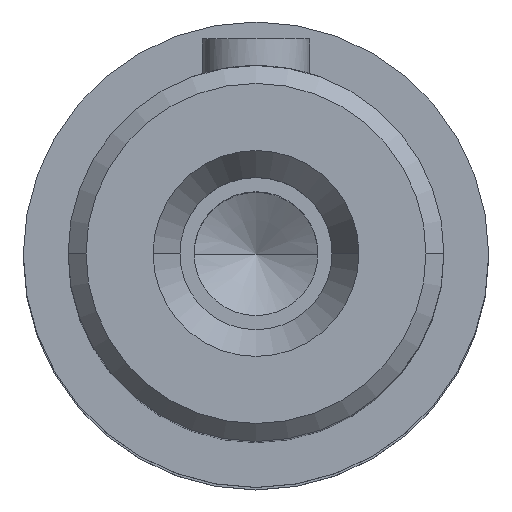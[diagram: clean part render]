
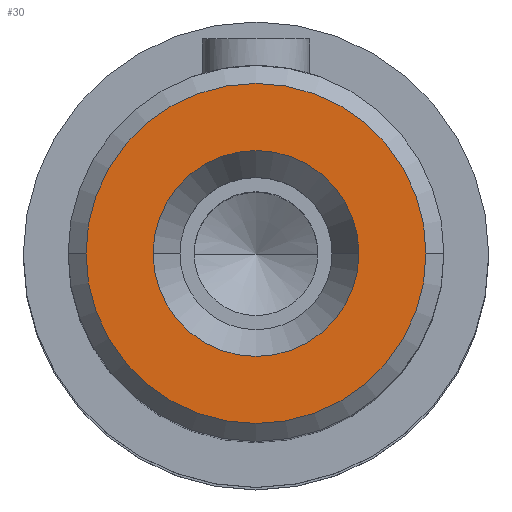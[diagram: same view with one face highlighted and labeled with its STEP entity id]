
A CAD part, top view. The second image highlights one B-rep face of the part: STEP entity #30.
In plain terms, the highlighted planar face has unit normal (0, 0, 1) as drawn and (1, 0, 0) by its records, which use the part's own axes.
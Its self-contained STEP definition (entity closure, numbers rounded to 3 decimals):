
#30=ADVANCED_FACE('',(#88,#73),#707,.T.);
#73=FACE_BOUND('',#144,.T.);
#88=FACE_OUTER_BOUND('',#143,.T.);
#143=EDGE_LOOP('',(#239,#240));
#144=EDGE_LOOP('',(#241,#242));
#239=ORIENTED_EDGE('',*,*,#404,.F.);
#240=ORIENTED_EDGE('',*,*,#407,.F.);
#241=ORIENTED_EDGE('',*,*,#469,.F.);
#242=ORIENTED_EDGE('',*,*,#432,.F.);
#404=EDGE_CURVE('',#647,#650,#539,.T.);
#407=EDGE_CURVE('',#650,#647,#541,.T.);
#432=EDGE_CURVE('',#649,#684,#551,.T.);
#469=EDGE_CURVE('',#684,#649,#572,.T.);
#539=TRIMMED_CURVE($,#588,(#1452),(#1453),.T.,.CARTESIAN.);
#541=TRIMMED_CURVE($,#590,(#1460),(#1461),.T.,.CARTESIAN.);
#551=TRIMMED_CURVE($,#600,(#1520),(#1521),.T.,.CARTESIAN.);
#572=TRIMMED_CURVE($,#621,(#1615),(#1616),.T.,.CARTESIAN.);
#588=CIRCLE('',#961,19.);
#590=CIRCLE('',#963,19.);
#600=CIRCLE('',#973,11.5);
#621=CIRCLE('',#994,11.5);
#647=VERTEX_POINT('',#1322);
#649=VERTEX_POINT('',#1324);
#650=VERTEX_POINT('',#1325);
#684=VERTEX_POINT('',#1359);
#707=PLANE('',#925);
#925=AXIS2_PLACEMENT_3D('',#1176,#1016,$);
#961=AXIS2_PLACEMENT_3D($,#1451,#1062,#1063);
#963=AXIS2_PLACEMENT_3D($,#1459,#1066,#1067);
#973=AXIS2_PLACEMENT_3D($,#1519,#1086,#1087);
#994=AXIS2_PLACEMENT_3D($,#1614,#1128,#1129);
#1016=DIRECTION('',(1.,0.,0.));
#1062=DIRECTION('',(-1.,0.,0.));
#1063=DIRECTION('',(0.,0.,1.));
#1066=DIRECTION('',(-1.,0.,0.));
#1067=DIRECTION('',(0.,0.,-1.));
#1086=DIRECTION('',(1.,0.,0.));
#1087=DIRECTION('',(0.,0.,-1.));
#1128=DIRECTION('',(1.,0.,0.));
#1129=DIRECTION('',(0.,0.,1.));
#1176=CARTESIAN_POINT('',(162.,-22.86,-22.86));
#1322=CARTESIAN_POINT('',(162.,0.,19.));
#1324=CARTESIAN_POINT('',(162.,0.,-11.5));
#1325=CARTESIAN_POINT('',(162.,0.,-19.));
#1359=CARTESIAN_POINT('',(162.,0.,11.5));
#1451=CARTESIAN_POINT('',(162.,0.,0.));
#1452=CARTESIAN_POINT('',(162.,0.,19.));
#1453=CARTESIAN_POINT('',(162.,0.,-19.));
#1459=CARTESIAN_POINT('',(162.,0.,0.));
#1460=CARTESIAN_POINT('',(162.,0.,-19.));
#1461=CARTESIAN_POINT('',(162.,0.,19.));
#1519=CARTESIAN_POINT('',(162.,0.,0.));
#1520=CARTESIAN_POINT('',(162.,0.,-11.5));
#1521=CARTESIAN_POINT('',(162.,0.,11.5));
#1614=CARTESIAN_POINT('',(162.,0.,0.));
#1615=CARTESIAN_POINT('',(162.,0.,11.5));
#1616=CARTESIAN_POINT('',(162.,0.,-11.5));
